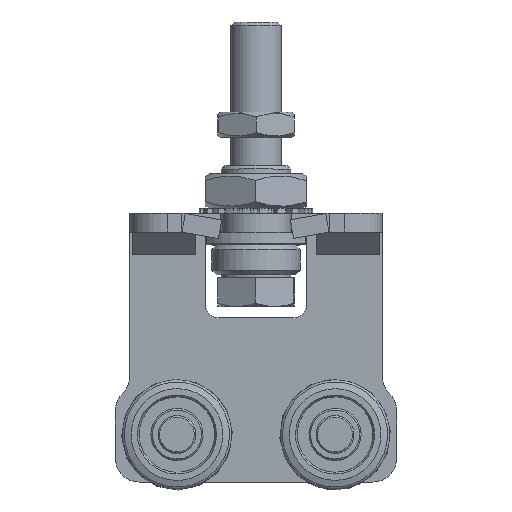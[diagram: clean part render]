
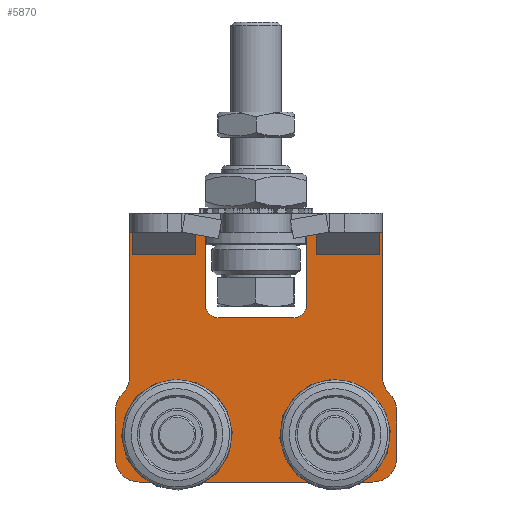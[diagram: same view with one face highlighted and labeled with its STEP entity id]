
A CAD part, top view. The second image highlights one B-rep face of the part: STEP entity #5870.
In plain terms, the highlighted planar face has unit normal (0, 0, 1).
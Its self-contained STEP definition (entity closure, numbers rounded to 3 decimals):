
#190=FACE_BOUND('',#1134,.T.);
#191=FACE_BOUND('',#1135,.T.);
#260=CIRCLE('',#6212,5.15);
#262=CIRCLE('',#6216,7.6);
#264=CIRCLE('',#6220,5.15);
#266=CIRCLE('',#6224,7.6);
#268=CIRCLE('',#6227,7.5);
#270=CIRCLE('',#6231,7.5);
#272=CIRCLE('',#6235,7.5);
#274=CIRCLE('',#6238,7.5);
#276=CIRCLE('',#6246,4.);
#278=CIRCLE('',#6250,4.);
#280=CIRCLE('',#6258,7.5);
#282=CIRCLE('',#6261,7.5);
#780=FACE_OUTER_BOUND('',#1133,.T.);
#1133=EDGE_LOOP('',(#4123,#4124,#4125,#4126,#4127,#4128,#4129,#4130,#4131,
#4132,#4133,#4134,#4135,#4136,#4137,#4138,#4139,#4140,#4141,#4142,#4143,
#4144));
#1134=EDGE_LOOP('',(#4145,#4146,#4147,#4148));
#1135=EDGE_LOOP('',(#4149,#4150,#4151,#4152));
#1542=LINE('',#8787,#2040);
#1547=LINE('',#8801,#2045);
#1550=LINE('',#8811,#2048);
#1555=LINE('',#8825,#2053);
#1560=LINE('',#8843,#2058);
#1564=LINE('',#8855,#2062);
#1569=LINE('',#8873,#2067);
#1572=LINE('',#8879,#2070);
#1575=LINE('',#8885,#2073);
#1578=LINE('',#8891,#2076);
#1581=LINE('',#8897,#2079);
#1585=LINE('',#8909,#2083);
#1589=LINE('',#8921,#2087);
#1592=LINE('',#8927,#2090);
#1595=LINE('',#8933,#2093);
#1598=LINE('',#8939,#2096);
#1601=LINE('',#8945,#2099);
#1606=LINE('',#8962,#2104);
#2040=VECTOR('',#6942,2.718);
#2045=VECTOR('',#6955,2.718);
#2048=VECTOR('',#6966,2.718);
#2053=VECTOR('',#6979,2.718);
#2058=VECTOR('',#6998,74.);
#2062=VECTOR('',#7010,15.);
#2067=VECTOR('',#7029,45.788);
#2070=VECTOR('',#7034,3.2);
#2073=VECTOR('',#7039,6.);
#2076=VECTOR('',#7044,20.8);
#2079=VECTOR('',#7049,29.);
#2083=VECTOR('',#7061,24.);
#2087=VECTOR('',#7073,29.);
#2090=VECTOR('',#7078,20.8);
#2093=VECTOR('',#7083,6.);
#2096=VECTOR('',#7088,3.2);
#2099=VECTOR('',#7093,45.788);
#2104=VECTOR('',#7112,15.);
#2526=VERTEX_POINT('',#8785);
#2527=VERTEX_POINT('',#8786);
#2530=VERTEX_POINT('',#8794);
#2532=VERTEX_POINT('',#8800);
#2534=VERTEX_POINT('',#8809);
#2535=VERTEX_POINT('',#8810);
#2538=VERTEX_POINT('',#8818);
#2540=VERTEX_POINT('',#8824);
#2542=VERTEX_POINT('',#8833);
#2543=VERTEX_POINT('',#8834);
#2546=VERTEX_POINT('',#8842);
#2548=VERTEX_POINT('',#8848);
#2550=VERTEX_POINT('',#8854);
#2552=VERTEX_POINT('',#8860);
#2554=VERTEX_POINT('',#8866);
#2556=VERTEX_POINT('',#8872);
#2558=VERTEX_POINT('',#8878);
#2560=VERTEX_POINT('',#8884);
#2562=VERTEX_POINT('',#8890);
#2564=VERTEX_POINT('',#8896);
#2566=VERTEX_POINT('',#8902);
#2568=VERTEX_POINT('',#8908);
#2570=VERTEX_POINT('',#8914);
#2572=VERTEX_POINT('',#8920);
#2574=VERTEX_POINT('',#8926);
#2576=VERTEX_POINT('',#8932);
#2578=VERTEX_POINT('',#8938);
#2580=VERTEX_POINT('',#8944);
#2582=VERTEX_POINT('',#8950);
#2584=VERTEX_POINT('',#8956);
#3116=EDGE_CURVE('',#2526,#2527,#1542,.T.);
#3120=EDGE_CURVE('',#2527,#2530,#260,.T.);
#3123=EDGE_CURVE('',#2530,#2532,#1547,.T.);
#3126=EDGE_CURVE('',#2532,#2526,#262,.T.);
#3128=EDGE_CURVE('',#2534,#2535,#1550,.T.);
#3132=EDGE_CURVE('',#2535,#2538,#264,.T.);
#3135=EDGE_CURVE('',#2538,#2540,#1555,.T.);
#3138=EDGE_CURVE('',#2540,#2534,#266,.T.);
#3140=EDGE_CURVE('',#2542,#2543,#268,.T.);
#3144=EDGE_CURVE('',#2543,#2546,#1560,.T.);
#3147=EDGE_CURVE('',#2546,#2548,#270,.T.);
#3150=EDGE_CURVE('',#2548,#2550,#1564,.T.);
#3153=EDGE_CURVE('',#2550,#2552,#272,.T.);
#3156=EDGE_CURVE('',#2552,#2554,#274,.T.);
#3159=EDGE_CURVE('',#2554,#2556,#1569,.T.);
#3162=EDGE_CURVE('',#2556,#2558,#1572,.T.);
#3165=EDGE_CURVE('',#2558,#2560,#1575,.T.);
#3168=EDGE_CURVE('',#2560,#2562,#1578,.T.);
#3171=EDGE_CURVE('',#2562,#2564,#1581,.T.);
#3174=EDGE_CURVE('',#2564,#2566,#276,.T.);
#3177=EDGE_CURVE('',#2566,#2568,#1585,.T.);
#3180=EDGE_CURVE('',#2568,#2570,#278,.T.);
#3183=EDGE_CURVE('',#2570,#2572,#1589,.T.);
#3186=EDGE_CURVE('',#2572,#2574,#1592,.T.);
#3189=EDGE_CURVE('',#2574,#2576,#1595,.T.);
#3192=EDGE_CURVE('',#2576,#2578,#1598,.T.);
#3195=EDGE_CURVE('',#2578,#2580,#1601,.T.);
#3198=EDGE_CURVE('',#2580,#2582,#280,.T.);
#3201=EDGE_CURVE('',#2582,#2584,#282,.T.);
#3204=EDGE_CURVE('',#2584,#2542,#1606,.T.);
#4123=ORIENTED_EDGE('',*,*,#3140,.F.);
#4124=ORIENTED_EDGE('',*,*,#3204,.F.);
#4125=ORIENTED_EDGE('',*,*,#3201,.F.);
#4126=ORIENTED_EDGE('',*,*,#3198,.F.);
#4127=ORIENTED_EDGE('',*,*,#3195,.F.);
#4128=ORIENTED_EDGE('',*,*,#3192,.F.);
#4129=ORIENTED_EDGE('',*,*,#3189,.F.);
#4130=ORIENTED_EDGE('',*,*,#3186,.F.);
#4131=ORIENTED_EDGE('',*,*,#3183,.F.);
#4132=ORIENTED_EDGE('',*,*,#3180,.F.);
#4133=ORIENTED_EDGE('',*,*,#3177,.F.);
#4134=ORIENTED_EDGE('',*,*,#3174,.F.);
#4135=ORIENTED_EDGE('',*,*,#3171,.F.);
#4136=ORIENTED_EDGE('',*,*,#3168,.F.);
#4137=ORIENTED_EDGE('',*,*,#3165,.F.);
#4138=ORIENTED_EDGE('',*,*,#3162,.F.);
#4139=ORIENTED_EDGE('',*,*,#3159,.F.);
#4140=ORIENTED_EDGE('',*,*,#3156,.F.);
#4141=ORIENTED_EDGE('',*,*,#3153,.F.);
#4142=ORIENTED_EDGE('',*,*,#3150,.F.);
#4143=ORIENTED_EDGE('',*,*,#3147,.F.);
#4144=ORIENTED_EDGE('',*,*,#3144,.F.);
#4145=ORIENTED_EDGE('',*,*,#3116,.T.);
#4146=ORIENTED_EDGE('',*,*,#3120,.T.);
#4147=ORIENTED_EDGE('',*,*,#3123,.T.);
#4148=ORIENTED_EDGE('',*,*,#3126,.T.);
#4149=ORIENTED_EDGE('',*,*,#3128,.T.);
#4150=ORIENTED_EDGE('',*,*,#3132,.T.);
#4151=ORIENTED_EDGE('',*,*,#3135,.T.);
#4152=ORIENTED_EDGE('',*,*,#3138,.T.);
#5671=PLANE('',#6264);
#5870=ADVANCED_FACE('',(#780,#190,#191),#5671,.T.);
#6212=AXIS2_PLACEMENT_3D('',#8795,#6948,#6949);
#6216=AXIS2_PLACEMENT_3D('',#8806,#6960,#6961);
#6220=AXIS2_PLACEMENT_3D('',#8819,#6972,#6973);
#6224=AXIS2_PLACEMENT_3D('',#8830,#6984,#6985);
#6227=AXIS2_PLACEMENT_3D('',#8835,#6990,#6991);
#6231=AXIS2_PLACEMENT_3D('',#8849,#7003,#7004);
#6235=AXIS2_PLACEMENT_3D('',#8861,#7015,#7016);
#6238=AXIS2_PLACEMENT_3D('',#8867,#7022,#7023);
#6246=AXIS2_PLACEMENT_3D('',#8903,#7054,#7055);
#6250=AXIS2_PLACEMENT_3D('',#8915,#7066,#7067);
#6258=AXIS2_PLACEMENT_3D('',#8951,#7098,#7099);
#6261=AXIS2_PLACEMENT_3D('',#8957,#7105,#7106);
#6264=AXIS2_PLACEMENT_3D('',#8964,#7114,#7115);
#6942=DIRECTION('',(0.866,0.5,0.));
#6948=DIRECTION('center_axis',(0.,0.,-1.));
#6949=DIRECTION('ref_axis',(0.821,-0.571,0.));
#6955=DIRECTION('',(0.866,-0.5,0.));
#6960=DIRECTION('center_axis',(0.,0.,-1.));
#6961=DIRECTION('ref_axis',(-0.866,-0.5,0.));
#6966=DIRECTION('',(0.866,0.5,0.));
#6972=DIRECTION('center_axis',(0.,0.,-1.));
#6973=DIRECTION('ref_axis',(0.821,-0.571,0.));
#6979=DIRECTION('',(0.866,-0.5,0.));
#6984=DIRECTION('center_axis',(0.,0.,-1.));
#6985=DIRECTION('ref_axis',(-0.866,-0.5,0.));
#6990=DIRECTION('center_axis',(0.,0.,-1.));
#6991=DIRECTION('ref_axis',(0.,-1.,0.));
#6998=DIRECTION('',(1.,0.,0.));
#7003=DIRECTION('center_axis',(0.,0.,-1.));
#7004=DIRECTION('ref_axis',(-1.,0.,0.));
#7010=DIRECTION('',(0.,-1.,0.));
#7015=DIRECTION('center_axis',(0.,0.,-1.));
#7016=DIRECTION('ref_axis',(-0.7,0.714,0.));
#7022=DIRECTION('center_axis',(0.,0.,1.));
#7023=DIRECTION('ref_axis',(-0.7,0.714,0.));
#7029=DIRECTION('',(0.,-1.,0.));
#7034=DIRECTION('',(-1.,0.,0.));
#7039=DIRECTION('',(0.,-1.,0.));
#7044=DIRECTION('',(-1.,0.,0.));
#7049=DIRECTION('',(0.,1.,0.));
#7054=DIRECTION('center_axis',(0.,0.,1.));
#7055=DIRECTION('ref_axis',(1.,0.,0.));
#7061=DIRECTION('',(-1.,0.,0.));
#7066=DIRECTION('center_axis',(0.,0.,1.));
#7067=DIRECTION('ref_axis',(0.,1.,0.));
#7073=DIRECTION('',(0.,-1.,0.));
#7078=DIRECTION('',(-1.,0.,0.));
#7083=DIRECTION('',(0.,1.,0.));
#7088=DIRECTION('',(-1.,0.,0.));
#7093=DIRECTION('',(0.,1.,0.));
#7098=DIRECTION('center_axis',(0.,0.,1.));
#7099=DIRECTION('ref_axis',(1.,0.,0.));
#7105=DIRECTION('center_axis',(0.,0.,-1.));
#7106=DIRECTION('ref_axis',(1.,0.,0.));
#7112=DIRECTION('',(0.,1.,0.));
#7114=DIRECTION('center_axis',(0.,0.,1.));
#7115=DIRECTION('ref_axis',(1.,0.,0.));
#8785=CARTESIAN_POINT('',(18.418,-4.3,6.));
#8786=CARTESIAN_POINT('',(20.772,-2.941,6.));
#8787=CARTESIAN_POINT('',(6.239,-11.332,6.));
#8794=CARTESIAN_POINT('',(29.228,-2.941,6.));
#8795=CARTESIAN_POINT('Origin',(25.,0.,6.));
#8800=CARTESIAN_POINT('',(31.582,-4.3,6.));
#8801=CARTESIAN_POINT('',(23.834,0.173,6.));
#8806=CARTESIAN_POINT('Origin',(25.,-0.5,6.));
#8809=CARTESIAN_POINT('',(-31.582,-4.3,6.));
#8810=CARTESIAN_POINT('',(-29.228,-2.941,6.));
#8811=CARTESIAN_POINT('',(-25.011,-0.506,6.));
#8818=CARTESIAN_POINT('',(-20.772,-2.941,6.));
#8819=CARTESIAN_POINT('Origin',(-25.,0.,6.));
#8824=CARTESIAN_POINT('',(-18.418,-4.3,6.));
#8825=CARTESIAN_POINT('',(-7.416,-10.652,6.));
#8830=CARTESIAN_POINT('Origin',(-25.,-0.5,6.));
#8833=CARTESIAN_POINT('',(-44.5,7.5,6.));
#8834=CARTESIAN_POINT('',(-37.,15.,6.));
#8835=CARTESIAN_POINT('Origin',(-37.,7.5,6.));
#8842=CARTESIAN_POINT('',(37.,15.,6.));
#8843=CARTESIAN_POINT('',(-37.,15.,6.));
#8848=CARTESIAN_POINT('',(44.5,7.5,6.));
#8849=CARTESIAN_POINT('Origin',(37.,7.5,6.));
#8854=CARTESIAN_POINT('',(44.5,-7.5,6.));
#8855=CARTESIAN_POINT('',(44.5,7.5,6.));
#8860=CARTESIAN_POINT('',(42.25,-12.856,6.));
#8861=CARTESIAN_POINT('Origin',(37.,-7.5,6.));
#8866=CARTESIAN_POINT('',(40.,-18.212,6.));
#8867=CARTESIAN_POINT('Origin',(47.5,-18.212,6.));
#8872=CARTESIAN_POINT('',(40.,-64.,6.));
#8873=CARTESIAN_POINT('',(40.,-18.212,6.));
#8878=CARTESIAN_POINT('',(36.8,-64.,6.));
#8879=CARTESIAN_POINT('',(40.,-64.,6.));
#8884=CARTESIAN_POINT('',(36.8,-70.,6.));
#8885=CARTESIAN_POINT('',(36.8,-64.,6.));
#8890=CARTESIAN_POINT('',(16.,-70.,6.));
#8891=CARTESIAN_POINT('',(36.8,-70.,6.));
#8896=CARTESIAN_POINT('',(16.,-41.,6.));
#8897=CARTESIAN_POINT('',(16.,-70.,6.));
#8902=CARTESIAN_POINT('',(12.,-37.,6.));
#8903=CARTESIAN_POINT('Origin',(12.,-41.,6.));
#8908=CARTESIAN_POINT('',(-12.,-37.,6.));
#8909=CARTESIAN_POINT('',(12.,-37.,6.));
#8914=CARTESIAN_POINT('',(-16.,-41.,6.));
#8915=CARTESIAN_POINT('Origin',(-12.,-41.,6.));
#8920=CARTESIAN_POINT('',(-16.,-70.,6.));
#8921=CARTESIAN_POINT('',(-16.,-41.,6.));
#8926=CARTESIAN_POINT('',(-36.8,-70.,6.));
#8927=CARTESIAN_POINT('',(-16.,-70.,6.));
#8932=CARTESIAN_POINT('',(-36.8,-64.,6.));
#8933=CARTESIAN_POINT('',(-36.8,-70.,6.));
#8938=CARTESIAN_POINT('',(-40.,-64.,6.));
#8939=CARTESIAN_POINT('',(-36.8,-64.,6.));
#8944=CARTESIAN_POINT('',(-40.,-18.212,6.));
#8945=CARTESIAN_POINT('',(-40.,-64.,6.));
#8950=CARTESIAN_POINT('',(-42.25,-12.856,6.));
#8951=CARTESIAN_POINT('Origin',(-47.5,-18.212,6.));
#8956=CARTESIAN_POINT('',(-44.5,-7.5,6.));
#8957=CARTESIAN_POINT('Origin',(-37.,-7.5,6.));
#8962=CARTESIAN_POINT('',(-44.5,-7.5,6.));
#8964=CARTESIAN_POINT('Origin',(0.,-28.651,
6.));
